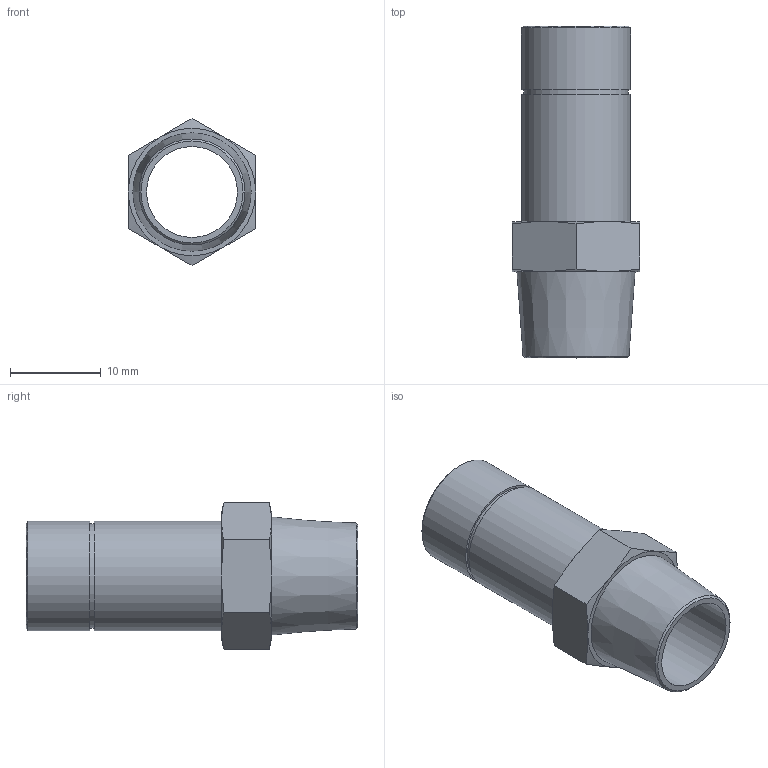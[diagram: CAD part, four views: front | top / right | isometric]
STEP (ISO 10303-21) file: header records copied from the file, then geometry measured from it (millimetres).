
FILE_DESCRIPTION(/* description */ (''),/* implementation_level */ '2;1');
FILE_NAME(/* name */ 'LXH15 0012 B2.stp',/* time_stamp */ '2026-04-28T15:56:01+02:00',/* author */ ('freju'),/* organization */ (''),/* preprocessor_version */ 'ST-DEVELOPER v20.1',/* originating_system */ 'Autodesk Inventor 2026',/* authorisation */ '');
FILE_SCHEMA (('AUTOMOTIVE_DESIGN { 1 0 10303 214 3 1 1 }'));
Length unit declared in the file: millimetre
Products named in the file (1): LXH15 0012 B2
Bounding box: 14 x 36.5 x 16.17 mm (x, y, z)
Volume: 1622.1 mm3; surface area: 2749.4 mm2
Topology: 1 solids, 1 shells, 31 faces, 63 edges, 38 vertices
Faces by surface type: cone 15, plane 12, cylinder 4
Full cylindrical faces by diameter (mm): 10 x1, 11.5 x1, 12 x2
Entity records: 830 total; most frequent: CARTESIAN_POINT 181, DIRECTION 129, ORIENTED_EDGE 126, EDGE_CURVE 63, AXIS2_PLACEMENT_3D 58, VERTEX_POINT 38, EDGE_LOOP 37, FACE_OUTER_BOUND 31
